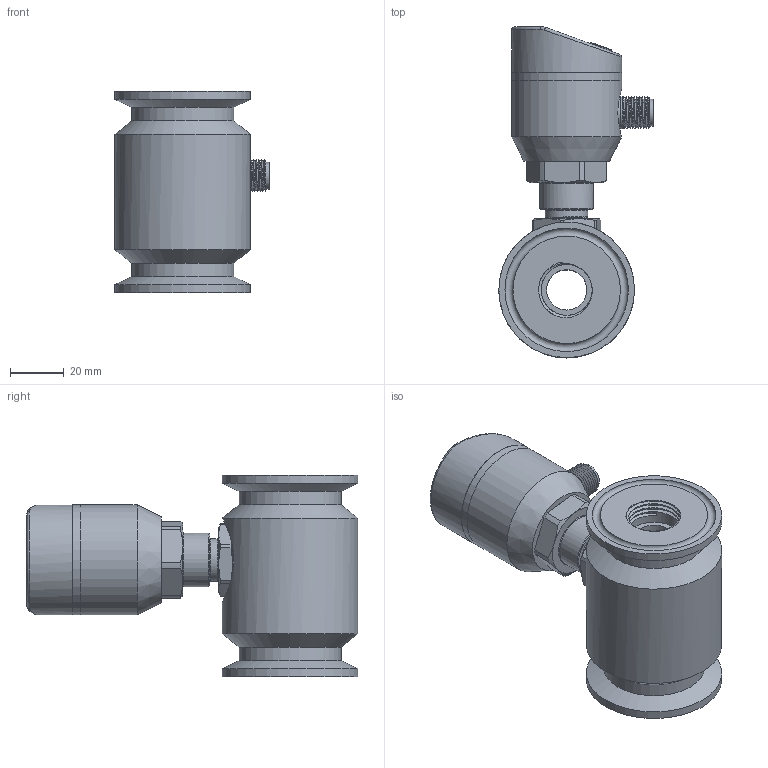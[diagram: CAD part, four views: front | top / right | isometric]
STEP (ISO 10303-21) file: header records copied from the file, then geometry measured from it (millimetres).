
FILE_DESCRIPTION( (''), '2;1');
FILE_NAME( 'QTKA_DN15_tri-clamp.step', '2024-01-11T14:16:13+08:00', (''), (''), '', '', '');
FILE_SCHEMA (('AUTOMOTIVE_DESIGN { 1 0 10303 214 3 1 1 1 }'));
Length unit declared in the file: millimetre
Products named in the file (1): QTKA DN15_tri-clamp
Bounding box: 57.43 x 123.55 x 75 mm (x, y, z)
Volume: 147867.9 mm3; surface area: 47553.2 mm2
Topology: 5 solids, 7 shells, 449 faces, 1084 edges, 686 vertices
Faces by surface type: plane 153, cylinder 151, cone 52, bspline 46, torus 41, sphere 6
Full cylindrical faces by diameter (mm): 1 x5, 2.7 x4, 8.4 x1, 9.7 x1, 9.8 x1, 10.1 x1, 11.6 x1, 12 x1, 15 x1, 15.9 x1, 17 x1, 19 x7, 20 x1, 23 x3, 26 x4, 26.1 x1, 37 x1, 38 x2, 41 x3, 50.5 x3
Entity records: 36416 total; most frequent: CARTESIAN_POINT 25344, DIRECTION 1934, ORIENTED_EDGE 1918, EDGE_CURVE 959, AXIS2_PLACEMENT_3D 778, VERTEX_POINT 633, EDGE_LOOP 550, ADVANCED_FACE 440
